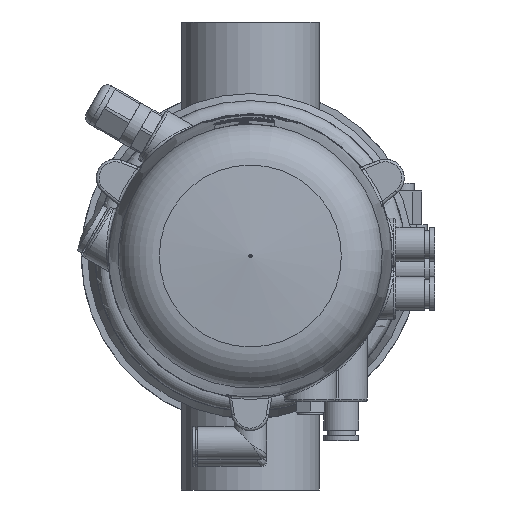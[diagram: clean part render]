
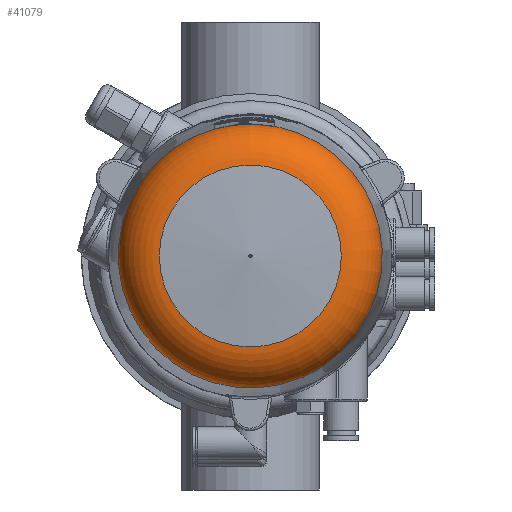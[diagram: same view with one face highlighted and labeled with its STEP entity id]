
A CAD part, front view. The second image highlights one B-rep face of the part: STEP entity #41079.
In plain terms, the highlighted toroidal (fillet/blend) face has major radius 33.812 mm and minor radius 17 mm.
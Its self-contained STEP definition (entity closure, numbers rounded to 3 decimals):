
#570 = EDGE_CURVE ( 'NONE', #45096, #40602, #14938, .T. ) ;
#941 = DIRECTION ( 'NONE',  ( 0., 0., -1. ) ) ;
#1052 = AXIS2_PLACEMENT_3D ( 'NONE', #54434, #23417, #19230 ) ;
#4596 = ORIENTED_EDGE ( 'NONE', *, *, #570, .F. ) ;
#7226 = DIRECTION ( 'NONE',  ( 0., 0., -1. ) ) ;
#8597 = DIRECTION ( 'NONE',  ( 0., 0., -1. ) ) ;
#9330 = CARTESIAN_POINT ( 'NONE',  ( -38.515, 140.491, -33.11 ) ) ;
#9639 = CARTESIAN_POINT ( 'NONE',  ( -49.217, 140.491, -12.546 ) ) ;
#13252 = ORIENTED_EDGE ( 'NONE', *, *, #56857, .T. ) ;
#14938 = CIRCLE ( 'NONE', #53130, 50.792 ) ;
#17537 = EDGE_LOOP ( 'NONE', ( #21747, #60168, #13252, #4596 ) ) ;
#18966 = CARTESIAN_POINT ( 'NONE',  ( 0., 156.588, 0. ) ) ;
#19230 = DIRECTION ( 'NONE',  ( 0., 0., -1. ) ) ;
#19390 = CARTESIAN_POINT ( 'NONE',  ( -49.217, 140.491, -12.546 ) ) ;
#21747 = ORIENTED_EDGE ( 'NONE', *, *, #49390, .F. ) ;
#23417 = DIRECTION ( 'NONE',  ( 0., -1., 0. ) ) ;
#25353 = CARTESIAN_POINT ( 'NONE',  ( -49.218, 140.473, -12.546 ) ) ;
#25829 = TOROIDAL_SURFACE ( 'NONE', #1052, 33.812, 17. ) ;
#28206 = VERTEX_POINT ( 'NONE', #19390 ) ;
#28942 = CARTESIAN_POINT ( 'NONE',  ( -38.517, 140.463, -33.11 ) ) ;
#29011 = CARTESIAN_POINT ( 'NONE',  ( -38.517, 140.463, -33.11 ) ) ;
#29834 = CARTESIAN_POINT ( 'NONE',  ( -49.218, 140.463, -12.546 ) ) ;
#35388 = CARTESIAN_POINT ( 'NONE',  ( -38.516, 140.473, -33.11 ) ) ;
#36358 = CIRCLE ( 'NONE', #42537, 34.998 ) ;
#38449 = AXIS2_PLACEMENT_3D ( 'NONE', #56391, #50592, #7226 ) ;
#40602 = VERTEX_POINT ( 'NONE', #29834 ) ;
#40855 = CARTESIAN_POINT ( 'NONE',  ( -49.217, 140.482, -12.546 ) ) ;
#41079 = ADVANCED_FACE ( 'NONE', ( #48645, #49596 ), #25829, .T. ) ;
#42537 = AXIS2_PLACEMENT_3D ( 'NONE', #18966, #63244, #8597 ) ;
#42690 = CARTESIAN_POINT ( 'NONE',  ( -38.515, 140.491, -33.11 ) ) ;
#43062 = EDGE_LOOP ( 'NONE', ( #59928 ) ) ;
#43578 = VERTEX_POINT ( 'NONE', #49106 ) ;
#45096 = VERTEX_POINT ( 'NONE', #28942 ) ;
#45687 = CIRCLE ( 'NONE', #38449, 50.791 ) ;
#48380 = EDGE_CURVE ( 'NONE', #43578, #43578, #36358, .T. ) ;
#48587 = EDGE_CURVE ( 'NONE', #49854, #28206, #45687, .T. ) ;
#48645 = FACE_OUTER_BOUND ( 'NONE', #17537, .T. ) ;
#49106 = CARTESIAN_POINT ( 'NONE',  ( 0., 156.588, -34.998 ) ) ;
#49390 = EDGE_CURVE ( 'NONE', #49854, #45096, #59729, .T. ) ;
#49596 = FACE_OUTER_BOUND ( 'NONE', #43062, .T. ) ;
#49854 = VERTEX_POINT ( 'NONE', #42690 ) ;
#50592 = DIRECTION ( 'NONE',  ( 0., 1., 0. ) ) ;
#53130 = AXIS2_PLACEMENT_3D ( 'NONE', #60409, #61400, #941 ) ;
#54434 = CARTESIAN_POINT ( 'NONE',  ( 0., 139.629, 0. ) ) ;
#55000 = B_SPLINE_CURVE_WITH_KNOTS ( 'NONE', 3,
 ( #9639, #40855, #25353, #60571 ),
 .UNSPECIFIED., .F., .F.,
 ( 4, 4 ),
 ( 0., 0. ),
 .UNSPECIFIED. ) ;
#56391 = CARTESIAN_POINT ( 'NONE',  ( 0., 140.491, 0. ) ) ;
#56857 = EDGE_CURVE ( 'NONE', #28206, #40602, #55000, .T. ) ;
#59729 = B_SPLINE_CURVE_WITH_KNOTS ( 'NONE', 3,
 ( #9330, #59950, #35388, #29011 ),
 .UNSPECIFIED., .F., .F.,
 ( 4, 4 ),
 ( 0., 0. ),
 .UNSPECIFIED. ) ;
#59928 = ORIENTED_EDGE ( 'NONE', *, *, #48380, .T. ) ;
#59950 = CARTESIAN_POINT ( 'NONE',  ( -38.516, 140.482, -33.11 ) ) ;
#60168 = ORIENTED_EDGE ( 'NONE', *, *, #48587, .T. ) ;
#60409 = CARTESIAN_POINT ( 'NONE',  ( 0., 140.463, 0. ) ) ;
#60571 = CARTESIAN_POINT ( 'NONE',  ( -49.218, 140.463, -12.546 ) ) ;
#61400 = DIRECTION ( 'NONE',  ( 0., -1., 0. ) ) ;
#63244 = DIRECTION ( 'NONE',  ( 0., -1., 0. ) ) ;
